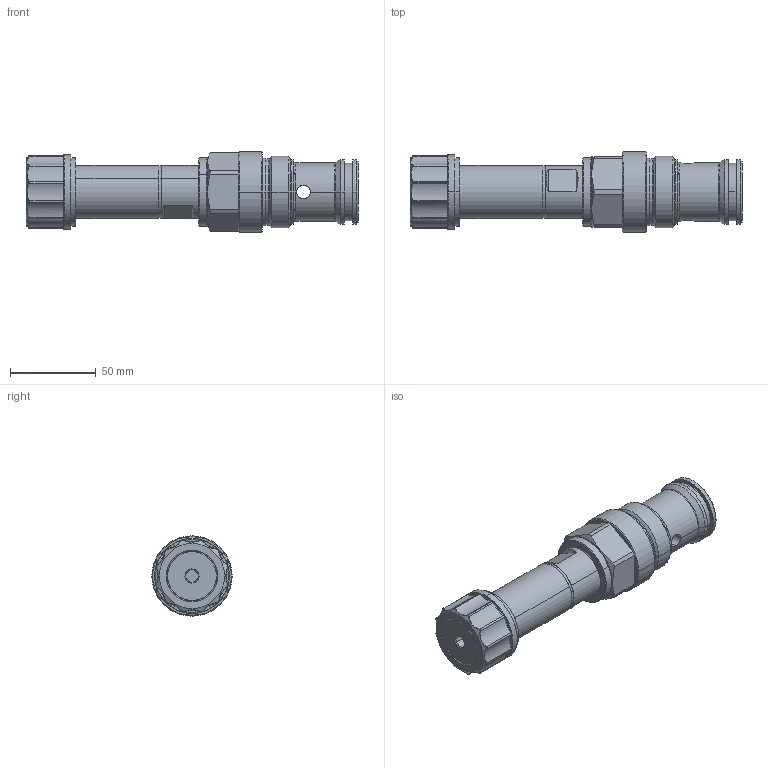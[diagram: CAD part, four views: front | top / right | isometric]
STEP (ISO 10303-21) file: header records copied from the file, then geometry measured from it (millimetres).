
FILE_DESCRIPTION (( 'STEP AP203' ), '1' );
FILE_NAME ('QNPPM42.step', '2013-07-29T07:44:38', ( 'Wandfluh AG' ), ( 'Wandfluh AG' ), 'SwSTEP 2.0', 'SolidWorks 2012', '' );
FILE_SCHEMA (( 'CONFIG_CONTROL_DESIGN' ));
Length unit declared in the file: millimetre
Products named in the file (1): QNPPM42
Bounding box: 194.1 x 47 x 47 mm (x, y, z)
Volume: 202413.9 mm3; surface area: 44905.9 mm2
Topology: 5 solids, 5 shells, 487 faces, 1127 edges, 618 vertices
Faces by surface type: bspline 176, cylinder 99, torus 84, cone 72, plane 56
Entity records: 16590 total; most frequent: CARTESIAN_POINT 6748, ORIENTED_EDGE 2158, DIRECTION 1943, EDGE_CURVE 1079, AXIS2_PLACEMENT_3D 875, VERTEX_POINT 618, CIRCLE 563, EDGE_LOOP 511
